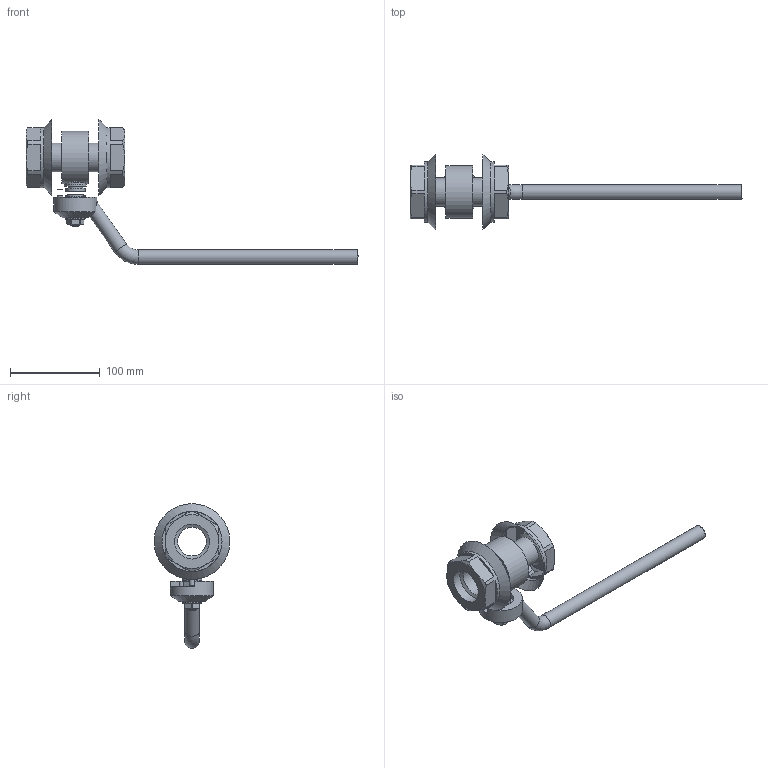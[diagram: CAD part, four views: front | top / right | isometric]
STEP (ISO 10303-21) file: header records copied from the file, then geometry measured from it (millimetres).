
FILE_DESCRIPTION(('STEP AP203'), '1');
FILE_NAME('ZARDP 032.025.10.P.stp', '2013-12-06T06:10:34', ('Øèøêî'), ('Ýíåðïðåä ßðäîñ'), 'ASCON STEP Converter 1.3', 'Kompas 3D', '');
FILE_SCHEMA(('CONFIG_CONTROL_DESIGN','SUPPORT_RESOURCE_SCHEMA'));
Length unit declared in the file: millimetre
Products named in the file (1): 45
Bounding box: 370.01 x 84.5 x 161.25 mm (x, y, z)
Surface area: 77124.3 mm2
Topology: 6 solids, 7 shells, 183 faces, 421 edges, 264 vertices
Faces by surface type: plane 96, cylinder 48, cone 31, torus 8
Full cylindrical faces by diameter (mm): 6 x2, 10 x2, 16 x3, 16.1 x1, 21.8 x1, 22 x2, 24.3 x1, 24.5 x1, 32 x2, 38.953 x2, 48 x1, 58.4 x1, 67 x2, 84.5 x1
Entity records: 7040 total; most frequent: CARTESIAN_POINT 2802, DIRECTION 887, ORIENTED_EDGE 840, EDGE_CURVE 421, AXIS2_PLACEMENT_3D 349, VERTEX_POINT 264, EDGE_LOOP 202, LINE 189
